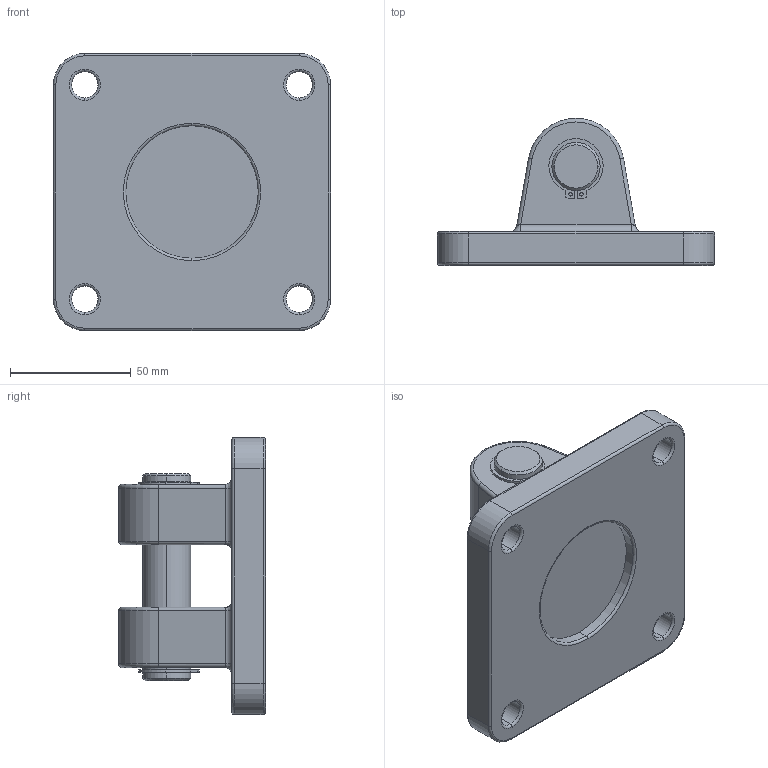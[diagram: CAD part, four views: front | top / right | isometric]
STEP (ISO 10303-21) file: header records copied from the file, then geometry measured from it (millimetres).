
FILE_DESCRIPTION (( 'STEP AP203' ), '1' );
FILE_NAME ('蚾饜极-ISO-CN 100.STEP', '2022-06-23T10:25:00', ( 'Windows' ), ( 'Microsoft' ), 'SwSTEP 2.0', 'SolidWorks 2018', '' );
FILE_SCHEMA (( 'CONFIG_CONTROL_DESIGN' ));
Length unit declared in the file: millimetre
Products named in the file (4): C-20; ISO-CN 100-种赽0; ISO-CN 100-MP; 蚾饜极-ISO-CN 100
Assembly tree (4 placements, depth 2):
  蚾饜极-ISO-CN 100
    C-20  x2
    ISO-CN 100-种赽0
    ISO-CN 100-MP
Bounding box: 115 x 61 x 115 mm (x, y, z)
Volume: 277160.7 mm3; surface area: 51894 mm2
Topology: 4 solids, 4 shells, 339 faces, 821 edges, 516 vertices
Faces by surface type: cylinder 99, plane 95, bspline 81, torus 52, cone 12
Entity records: 13927 total; most frequent: CARTESIAN_POINT 6354, ORIENTED_EDGE 1546, DIRECTION 1373, EDGE_CURVE 773, AXIS2_PLACEMENT_3D 515, VERTEX_POINT 484, EDGE_LOOP 359, LINE 343
